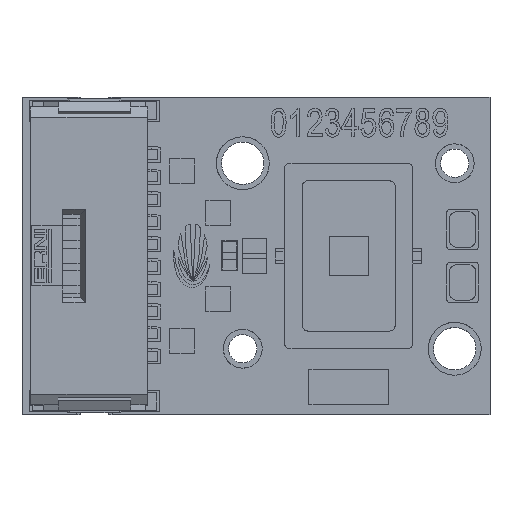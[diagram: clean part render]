
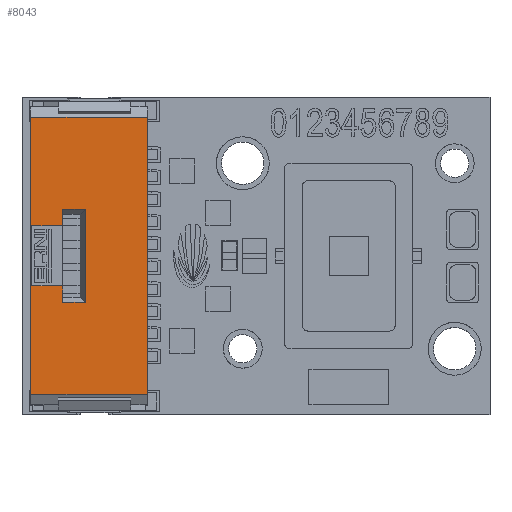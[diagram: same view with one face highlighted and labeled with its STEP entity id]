
A CAD part, top view. The second image highlights one B-rep face of the part: STEP entity #8043.
In plain terms, the highlighted planar face has unit normal (0, 0, 1).
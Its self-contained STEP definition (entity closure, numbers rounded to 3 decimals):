
#235=FACE_BOUND('',#10679,.T.);
#8043=ADVANCED_FACE('',(#9255,#235),#24660,.T.);
#9255=FACE_OUTER_BOUND('',#10678,.T.);
#10678=EDGE_LOOP('',(#14738,#14739,#14740,#14741));
#10679=EDGE_LOOP('',(#14742,#14743,#14744,#14745,#14746,#14747,#14748,#14749));
#14738=ORIENTED_EDGE('',*,*,#18860,.T.);
#14739=ORIENTED_EDGE('',*,*,#18861,.T.);
#14740=ORIENTED_EDGE('',*,*,#18862,.T.);
#14741=ORIENTED_EDGE('',*,*,#18863,.T.);
#14742=ORIENTED_EDGE('',*,*,#18871,.T.);
#14743=ORIENTED_EDGE('',*,*,#18864,.T.);
#14744=ORIENTED_EDGE('',*,*,#18865,.T.);
#14745=ORIENTED_EDGE('',*,*,#18866,.T.);
#14746=ORIENTED_EDGE('',*,*,#18867,.T.);
#14747=ORIENTED_EDGE('',*,*,#18868,.T.);
#14748=ORIENTED_EDGE('',*,*,#18869,.T.);
#14749=ORIENTED_EDGE('',*,*,#18870,.T.);
#18860=EDGE_CURVE('',#23473,#23474,#21138,.T.);
#18861=EDGE_CURVE('',#23474,#23475,#21139,.T.);
#18862=EDGE_CURVE('',#23475,#23476,#21140,.T.);
#18863=EDGE_CURVE('',#23476,#23473,#21141,.T.);
#18864=EDGE_CURVE('',#23477,#23478,#21142,.T.);
#18865=EDGE_CURVE('',#23478,#23479,#21143,.T.);
#18866=EDGE_CURVE('',#23479,#23480,#21144,.T.);
#18867=EDGE_CURVE('',#23480,#23481,#21145,.T.);
#18868=EDGE_CURVE('',#23481,#23482,#21146,.T.);
#18869=EDGE_CURVE('',#23482,#23483,#21147,.T.);
#18870=EDGE_CURVE('',#23483,#23484,#21148,.T.);
#18871=EDGE_CURVE('',#23484,#23477,#21149,.T.);
#21138=B_SPLINE_CURVE_WITH_KNOTS('',1,(#37764,#37765),.UNSPECIFIED.,.F.,
 .F.,(2,2),(0.,6.6),.UNSPECIFIED.);
#21139=B_SPLINE_CURVE_WITH_KNOTS('',1,(#37766,#37767),.UNSPECIFIED.,.F.,
 .F.,(2,2),(0.,15.68),.UNSPECIFIED.);
#21140=B_SPLINE_CURVE_WITH_KNOTS('',1,(#37768,#37769),.UNSPECIFIED.,.F.,
 .F.,(2,2),(0.,6.6),.UNSPECIFIED.);
#21141=B_SPLINE_CURVE_WITH_KNOTS('',1,(#37770,#37771),.UNSPECIFIED.,.F.,
 .F.,(2,2),(0.,15.68),.UNSPECIFIED.);
#21142=B_SPLINE_CURVE_WITH_KNOTS('',1,(#37772,#37773),.UNSPECIFIED.,.F.,
 .F.,(2,2),(0.,1.289),.UNSPECIFIED.);
#21143=B_SPLINE_CURVE_WITH_KNOTS('',1,(#37774,#37775),.UNSPECIFIED.,.F.,
 .F.,(2,2),(0.,0.939),.UNSPECIFIED.);
#21144=B_SPLINE_CURVE_WITH_KNOTS('',1,(#37776,#37777),.UNSPECIFIED.,.F.,
 .F.,(2,2),(0.,1.75),.UNSPECIFIED.);
#21145=B_SPLINE_CURVE_WITH_KNOTS('',1,(#37778,#37779),.UNSPECIFIED.,.F.,
 .F.,(2,2),(0.,3.4),.UNSPECIFIED.);
#21146=B_SPLINE_CURVE_WITH_KNOTS('',1,(#37780,#37781),.UNSPECIFIED.,.F.,
 .F.,(2,2),(0.,1.75),.UNSPECIFIED.);
#21147=B_SPLINE_CURVE_WITH_KNOTS('',1,(#37782,#37783),.UNSPECIFIED.,.F.,
 .F.,(2,2),(0.,0.939),.UNSPECIFIED.);
#21148=B_SPLINE_CURVE_WITH_KNOTS('',1,(#37784,#37785),.UNSPECIFIED.,.F.,
 .F.,(2,2),(0.,1.289),.UNSPECIFIED.);
#21149=B_SPLINE_CURVE_WITH_KNOTS('',1,(#37786,#37787),.UNSPECIFIED.,.F.,
 .F.,(2,2),(0.,5.277),.UNSPECIFIED.);
#23473=VERTEX_POINT('',#37008);
#23474=VERTEX_POINT('',#37009);
#23475=VERTEX_POINT('',#37010);
#23476=VERTEX_POINT('',#37011);
#23477=VERTEX_POINT('',#37012);
#23478=VERTEX_POINT('',#37013);
#23479=VERTEX_POINT('',#37014);
#23480=VERTEX_POINT('',#37015);
#23481=VERTEX_POINT('',#37016);
#23482=VERTEX_POINT('',#37017);
#23483=VERTEX_POINT('',#37018);
#23484=VERTEX_POINT('',#37019);
#24660=PLANE('',#26021);
#26021=AXIS2_PLACEMENT_3D('',#36469,#27234,$);
#27234=DIRECTION('',(0.,0.,1.));
#36469=CARTESIAN_POINT('',(-10.74,9.408,3.527));
#37008=CARTESIAN_POINT('',(-11.4,7.84,3.527));
#37009=CARTESIAN_POINT('',(-18.,7.84,3.527));
#37010=CARTESIAN_POINT('',(-18.,-7.84,3.527));
#37011=CARTESIAN_POINT('',(-11.4,-7.84,3.527));
#37012=CARTESIAN_POINT('',(-14.911,-2.639,3.527));
#37013=CARTESIAN_POINT('',(-16.2,-2.639,3.527));
#37014=CARTESIAN_POINT('',(-16.2,-1.7,3.527));
#37015=CARTESIAN_POINT('',(-17.95,-1.7,3.527));
#37016=CARTESIAN_POINT('',(-17.95,1.7,3.527));
#37017=CARTESIAN_POINT('',(-16.2,1.7,3.527));
#37018=CARTESIAN_POINT('',(-16.2,2.639,3.527));
#37019=CARTESIAN_POINT('',(-14.911,2.639,3.527));
#37764=CARTESIAN_POINT('',(-11.4,7.84,3.527));
#37765=CARTESIAN_POINT('',(-18.,7.84,3.527));
#37766=CARTESIAN_POINT('',(-18.,7.84,3.527));
#37767=CARTESIAN_POINT('',(-18.,-7.84,3.527));
#37768=CARTESIAN_POINT('',(-18.,-7.84,3.527));
#37769=CARTESIAN_POINT('',(-11.4,-7.84,3.527));
#37770=CARTESIAN_POINT('',(-11.4,-7.84,3.527));
#37771=CARTESIAN_POINT('',(-11.4,7.84,3.527));
#37772=CARTESIAN_POINT('',(-14.911,-2.639,3.527));
#37773=CARTESIAN_POINT('',(-16.2,-2.639,3.527));
#37774=CARTESIAN_POINT('',(-16.2,-2.639,3.527));
#37775=CARTESIAN_POINT('',(-16.2,-1.7,3.527));
#37776=CARTESIAN_POINT('',(-16.2,-1.7,3.527));
#37777=CARTESIAN_POINT('',(-17.95,-1.7,3.527));
#37778=CARTESIAN_POINT('',(-17.95,-1.7,3.527));
#37779=CARTESIAN_POINT('',(-17.95,1.7,3.527));
#37780=CARTESIAN_POINT('',(-17.95,1.7,3.527));
#37781=CARTESIAN_POINT('',(-16.2,1.7,3.527));
#37782=CARTESIAN_POINT('',(-16.2,1.7,3.527));
#37783=CARTESIAN_POINT('',(-16.2,2.639,3.527));
#37784=CARTESIAN_POINT('',(-16.2,2.639,3.527));
#37785=CARTESIAN_POINT('',(-14.911,2.639,3.527));
#37786=CARTESIAN_POINT('',(-14.911,2.639,3.527));
#37787=CARTESIAN_POINT('',(-14.911,-2.639,3.527));
